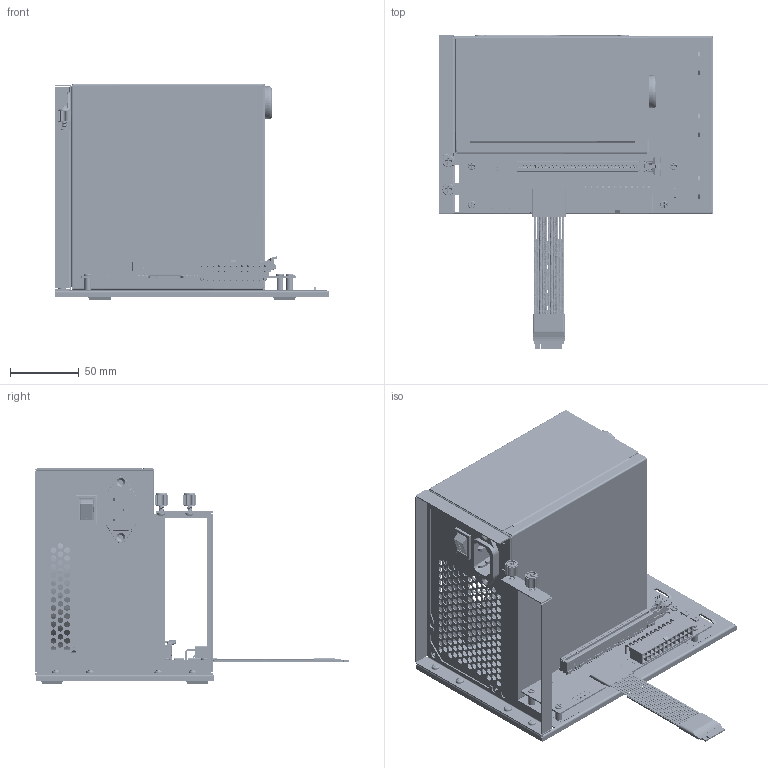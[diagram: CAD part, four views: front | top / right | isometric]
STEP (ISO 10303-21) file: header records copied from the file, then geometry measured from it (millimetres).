
FILE_DESCRIPTION(('Open CASCADE Model'),'2;1');
FILE_NAME('Open CASCADE Shape Model','2025-09-02T11:03:13',('Author'),( 'Open CASCADE'),'Open CASCADE STEP processor 7.5','Open CASCADE 7.5' ,'Unknown');
FILE_SCHEMA(('AUTOMOTIVE_DESIGN { 1 0 10303 214 1 1 1 1 }'));
Length unit declared in the file: millimetre
Products named in the file (285): PCB; Board; Open CASCADE STEP translator 7.5 4.1.1; SW2; MiniSide Switch; CN3; APC50023-P005CC_3D; SW1; CN4; 039300240; Q1; SOT-23; R1; 0603_RES; Capsule; Encapsulation; TopCover; R6; R5; R4; R3; R2; D4; LED AP1608; D3; D2; D1; C1; C0603_060; Free-Models; M4315ӸɫÝ˿; ²౥; Ý˿; ֧³ŽÀ; µ××ù; ATX Power Supply v1.0; Д¿¨¹̶¨Ýĸ; R4S HST 20220711_RGB4408131; K44SH 20P ֱ¿잲0250423; K44SH 24P ֱ¿잲0250423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
Assembly tree (311 placements, depth 4):
  PCB
    Board
      Open CASCADE STEP translator 7.5 4.1.1
    SW2
      MiniSide Switch
    CN3
      APC50023-P005CC_3D
    SW1
      MiniSide Switch
    CN4
      039300240
    Q1
      SOT-23
    R1
      0603_RES
        Capsule
        Encapsulation  x2
        TopCover
    R6
      0603_RES
        Capsule
        Encapsulation  x2
        TopCover
    R5
      0603_RES
        Capsule
        Encapsulation  x2
        TopCover
    R4
      0603_RES
        Capsule
        Encapsulation  x2
        TopCover
    R3
      0603_RES
        Capsule
        Encapsulation  x2
        TopCover
    R2
      0603_RES
        Capsule
        Encapsulation  x2
        TopCover
    D4
      LED AP1608
    D3
      LED AP1608
    D2
      LED AP1608
    D1
      LED AP1608
    C1
      C0603_060
      C0603_060
      C0603_060
    Free-Models
      M4315ӸɫÝ˿  x4
      ²౥
      Ý˿  x4
      ֧³ŽÀ  x4
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Bounding box: 200.22 x 228.71 x 157.5 mm (x, y, z)
Volume: 589380.3 mm3; surface area: 866150.4 mm2
Topology: 325 solids, 325 shells, 22231 faces, 58195 edges, 36376 vertices
Faces by surface type: plane 11568, bspline 6129, cylinder 3375, revolution 1035, torus 55, cone 35, extrusion 22, sphere 12
Full cylindrical faces by diameter (mm): 0.2 x132, 0.254 x176, 0.63 x44, 0.762 x4, 0.8 x4, 0.9 x4, 1.8 x24, 3 x2, 3.3 x3, 3.4 x46, 3.5 x5, 3.6 x10, 4.6 x4, 5 x4, 5.5 x4, 5.6 x6, 6.6 x4, 8.6 x4
Entity records: 771128 total; most frequent: CARTESIAN_POINT 205518, ORIENTED_EDGE 93018, DIRECTION 68318, EDGE_CURVE 46509, VERTEX_POINT 29172, VECTOR 27710, LINE 27688, FACE_BOUND 20181
